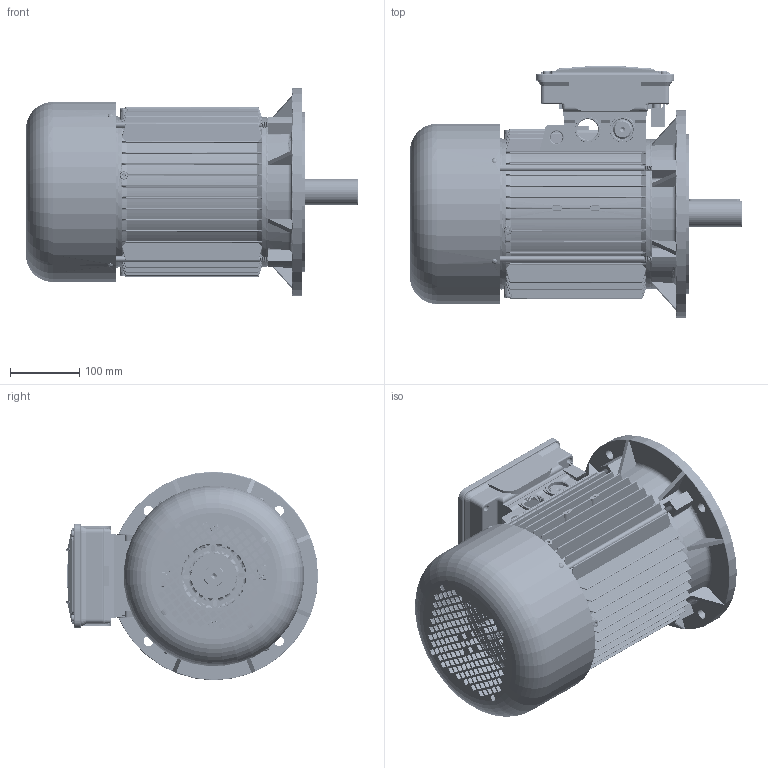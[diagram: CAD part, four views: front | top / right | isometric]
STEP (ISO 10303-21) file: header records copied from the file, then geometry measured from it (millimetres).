
FILE_DESCRIPTION (( 'STEP AP214' ), '1' );
FILE_NAME ('M24IB0010.STEP', '2019-03-16T09:31:23', ( '' ), ( '' ), 'SwSTEP 2.0', 'SolidWorks 2018', '' );
FILE_SCHEMA (( 'AUTOMOTIVE_DESIGN' ));
Length unit declared in the file: millimetre
Products named in the file (18): Pipetta passafilo; Scatola per Morsettiera BA 132 - DGBQ0102; Tirante SM 132 S - DGCQ0003; Vite testa rotonda M3; Cuffia SM 132; Scudo Lato Comando B3 BA 132; Chiavetta 132; Albero SM 132 S; Scudo a flangia B5 Fi 300 BA 132 - DGAA0195; Scatola BA 132 - Completa; Vite M5x20; Carcassa 132 S B5; Coperchio Scatola Morsettiera BA 132 - DGBR0002; M24IB0010; Guarnizione Coperchio Morsettiera Doppia Scatola BA 132 - DGBS0102; Piastra stringi Pipetta BA 132 - DGBA0210 bis; Guarnizione Basetta BA 132 - DGBU0202; Vite Autofilettante Testa Bombata 4,8x9,5
Assembly tree (27 placements, depth 3):
  M24IB0010
    Carcassa 132 S B5
    Scudo a flangia B5 Fi 300 BA 132 - DGAA0195
    Albero SM 132 S
    Chiavetta 132
    Scudo Lato Comando B3 BA 132
    Cuffia SM 132
    Vite testa rotonda M3  x4
    Tirante SM 132 S - DGCQ0003  x4
    Scatola BA 132 - Completa
      Scatola per Morsettiera BA 132 - DGBQ0102
      Pipetta passafilo  x2
      Vite Autofilettante Testa Bombata 4,8x9,5
      Guarnizione Basetta BA 132 - DGBU0202
      Piastra stringi Pipetta BA 132 - DGBA0210 bis
      Guarnizione Coperchio Morsettiera Doppia Scatola BA 132 - DGBS0102
      Coperchio Scatola Morsettiera BA 132 - DGBR0002
      Vite M5x20  x4
Bounding box: 478 x 362.89 x 300 mm (x, y, z)
Volume: 4276626.2 mm3; surface area: 1628958.1 mm2
Topology: 26 solids, 26 shells, 5352 faces, 14485 edges, 9224 vertices
Faces by surface type: cylinder 2458, plane 1633, bspline 459, cone 421, torus 361, sphere 20
Entity records: 189673 total; most frequent: CARTESIAN_POINT 80136, ORIENTED_EDGE 23990, DIRECTION 21210, EDGE_CURVE 11995, AXIS2_PLACEMENT_3D 7793, VERTEX_POINT 7655, LINE 5624, VECTOR 5624
